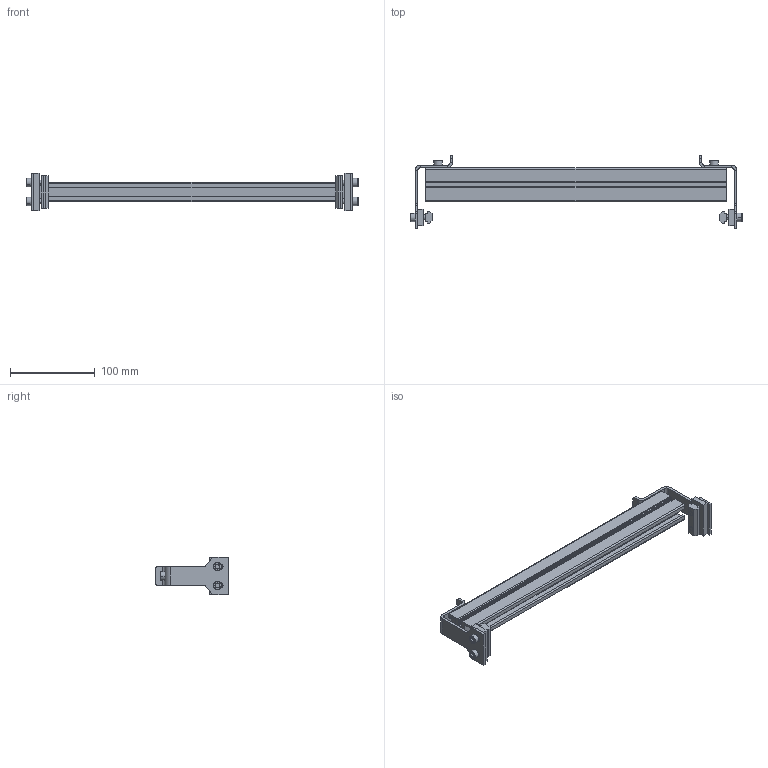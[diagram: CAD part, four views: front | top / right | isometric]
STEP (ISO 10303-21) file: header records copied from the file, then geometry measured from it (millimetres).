
FILE_DESCRIPTION (( 'STEP AP203' ), '1' );
FILE_NAME ('207133-14.STEP', '2018-06-11T14:14:12', ( '' ), ( '' ), 'SwSTEP 2.0', 'SolidWorks 2017', '' );
FILE_SCHEMA (( 'CONFIG_CONTROL_DESIGN' ));
Length unit declared in the file: inch
Products named in the file (8): 207133-14; 200626M; 9206XXM_920620M; 9206XXM_920614M; 202444; 207135-WW_207135-14; 201937; 639971M_CAE
Assembly tree (15 placements, depth 2):
  207133-14
    201937  x2
    207135-WW_207135-14
    202444  x2
    200626M  x2
    639971M_CAE  x2
    9206XXM_920614M  x2
    9206XXM_920620M  x4
Bounding box: 391.37 x 85.8 x 44.45 mm (x, y, z)
Volume: 188368 mm3; surface area: 117231.9 mm2
Topology: 15 solids, 15 shells, 428 faces, 1030 edges, 644 vertices
Faces by surface type: plane 258, cylinder 104, cone 66
Entity records: 8258 total; most frequent: CARTESIAN_POINT 1362, DIRECTION 1216, ORIENTED_EDGE 1200, EDGE_CURVE 600, LINE 460, VECTOR 460, VERTEX_POINT 384, AXIS2_PLACEMENT_3D 378
